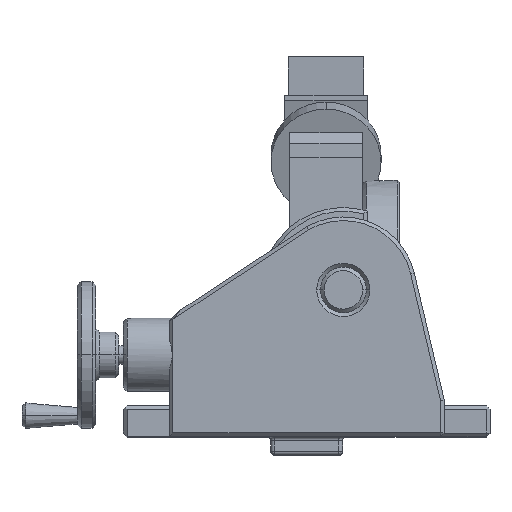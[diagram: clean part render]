
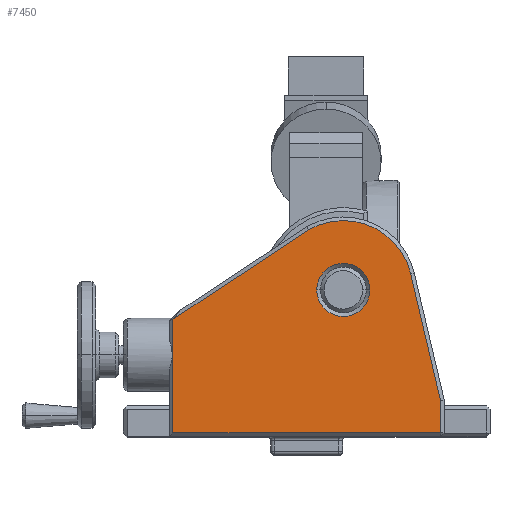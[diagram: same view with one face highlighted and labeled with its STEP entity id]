
A CAD part, top view. The second image highlights one B-rep face of the part: STEP entity #7450.
In plain terms, the highlighted planar face has unit normal (0, 0, 1).
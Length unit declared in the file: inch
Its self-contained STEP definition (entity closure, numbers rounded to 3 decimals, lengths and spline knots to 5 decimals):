
#230 = LINE ( 'NONE', #6066, #233 ) ;
#233 = VECTOR ( 'NONE', #6067, 39.37008 ) ;
#1207 = FACE_BOUND ( 'NONE', #3956, .T. ) ;
#1211 = FACE_OUTER_BOUND ( 'NONE', #3950, .T. ) ;
#1894 = CARTESIAN_POINT ( 'NONE',  ( 2.8396, 4.43282, 5.25 ) ) ;
#1902 = CARTESIAN_POINT ( 'NONE',  ( 0.275, 4., 5.25 ) ) ;
#1935 = CARTESIAN_POINT ( 'NONE',  ( 1.725, 4., 5.25 ) ) ;
#1944 = CARTESIAN_POINT ( 'NONE',  ( 0.05264, 5.63523, 5.25 ) ) ;
#1962 = CARTESIAN_POINT ( 'NONE',  ( 3.65, 0.1, 5.25 ) ) ;
#1986 = CARTESIAN_POINT ( 'NONE',  ( -3.65, 3.19613, 5.25 ) ) ;
#1987 = CARTESIAN_POINT ( 'NONE',  ( 3.65, 0.98839, 5.25 ) ) ;
#2116 = CARTESIAN_POINT ( 'NONE',  ( -3.65, 0.1, 5.25 ) ) ;
#2445 = CARTESIAN_POINT ( 'NONE',  ( 0.05264, 5.63523, 5.25 ) ) ;
#2455 = DIRECTION ( 'NONE',  ( -0.835, -0.55, 0. ) ) ;
#2970 = ORIENTED_EDGE ( 'NONE', *, *, #4489, .T. ) ;
#2972 = ORIENTED_EDGE ( 'NONE', *, *, #4589, .T. ) ;
#2974 = ORIENTED_EDGE ( 'NONE', *, *, #4593, .T. ) ;
#3167 = ORIENTED_EDGE ( 'NONE', *, *, #4055, .T. ) ;
#3176 = ORIENTED_EDGE ( 'NONE', *, *, #4259, .T. ) ;
#3198 = ORIENTED_EDGE ( 'NONE', *, *, #4599, .T. ) ;
#3239 = ORIENTED_EDGE ( 'NONE', *, *, #4187, .F. ) ;
#3270 = ORIENTED_EDGE ( 'NONE', *, *, #4406, .F. ) ;
#3306 = LINE ( 'NONE', #2445, #3311 ) ;
#3311 = VECTOR ( 'NONE', #2455, 39.37008 ) ;
#3427 = CIRCLE ( 'NONE', #4299, 0.725 ) ;
#3524 = LINE ( 'NONE', #10418, #3528 ) ;
#3528 = VECTOR ( 'NONE', #10429, 39.37008 ) ;
#3625 = CIRCLE ( 'NONE', #4611, 0.725 ) ;
#3715 = LINE ( 'NONE', #11043, #3719 ) ;
#3719 = VECTOR ( 'NONE', #11039, 39.37008 ) ;
#3861 = CIRCLE ( 'NONE', #4332, 1.88983 ) ;
#3871 = LINE ( 'NONE', #6044, #3872 ) ;
#3872 = VECTOR ( 'NONE', #6039, 39.37008 ) ;
#3950 = EDGE_LOOP ( 'NONE', ( #3176, #2970, #3198, #2974, #2972, #3167 ) ) ;
#3956 = EDGE_LOOP ( 'NONE', ( #3239, #3270 ) ) ;
#4055 = EDGE_CURVE ( 'NONE', #9342, #9384, #3306, .T. ) ;
#4187 = EDGE_CURVE ( 'NONE', #9333, #9300, #3427, .T. ) ;
#4259 = EDGE_CURVE ( 'NONE', #9384, #9564, #3524, .T. ) ;
#4299 = AXIS2_PLACEMENT_3D ( 'NONE', #9142, #9143, #9144 ) ;
#4332 = AXIS2_PLACEMENT_3D ( 'NONE', #6048, #6049, #6050 ) ;
#4406 = EDGE_CURVE ( 'NONE', #9300, #9333, #3625, .T. ) ;
#4489 = EDGE_CURVE ( 'NONE', #9564, #9360, #3715, .T. ) ;
#4589 = EDGE_CURVE ( 'NONE', #9292, #9342, #3861, .T. ) ;
#4593 = EDGE_CURVE ( 'NONE', #9385, #9292, #3871, .T. ) ;
#4599 = EDGE_CURVE ( 'NONE', #9360, #9385, #230, .T. ) ;
#4611 = AXIS2_PLACEMENT_3D ( 'NONE', #5770, #5772, #5774 ) ;
#5770 = CARTESIAN_POINT ( 'NONE',  ( 1., 4., 5.25 ) ) ;
#5772 = DIRECTION ( 'NONE',  ( 0., 0., 1. ) ) ;
#5774 = DIRECTION ( 'NONE',  ( 1., 0., 0. ) ) ;
#6039 = DIRECTION ( 'NONE',  ( -0.229, 0.973, 0. ) ) ;
#6044 = CARTESIAN_POINT ( 'NONE',  ( 3.65, 0.98839, 5.25 ) ) ;
#6048 = CARTESIAN_POINT ( 'NONE',  ( 1., 4., 5.25 ) ) ;
#6049 = DIRECTION ( 'NONE',  ( 0., 0., 1. ) ) ;
#6050 = DIRECTION ( 'NONE',  ( -1., 0., 0. ) ) ;
#6066 = CARTESIAN_POINT ( 'NONE',  ( 3.65, 3.01228, 5.25 ) ) ;
#6067 = DIRECTION ( 'NONE',  ( 0., 1., 0. ) ) ;
#6651 = AXIS2_PLACEMENT_3D ( 'NONE', #10327, #10324, #10331 ) ;
#7450 = ADVANCED_FACE ( 'NONE', ( #1207, #1211 ), #10329, .T. ) ;
#9142 = CARTESIAN_POINT ( 'NONE',  ( 1., 4., 5.25 ) ) ;
#9143 = DIRECTION ( 'NONE',  ( 0., 0., 1. ) ) ;
#9144 = DIRECTION ( 'NONE',  ( 1., 0., 0. ) ) ;
#9292 = VERTEX_POINT ( 'NONE', #1894 ) ;
#9300 = VERTEX_POINT ( 'NONE', #1902 ) ;
#9333 = VERTEX_POINT ( 'NONE', #1935 ) ;
#9342 = VERTEX_POINT ( 'NONE', #1944 ) ;
#9360 = VERTEX_POINT ( 'NONE', #1962 ) ;
#9384 = VERTEX_POINT ( 'NONE', #1986 ) ;
#9385 = VERTEX_POINT ( 'NONE', #1987 ) ;
#9564 = VERTEX_POINT ( 'NONE', #2116 ) ;
#10324 = DIRECTION ( 'NONE',  ( 0., 0., 1. ) ) ;
#10327 = CARTESIAN_POINT ( 'NONE',  ( -3.65, 0.1, 5.25 ) ) ;
#10329 = PLANE ( 'NONE',  #6651 ) ;
#10331 = DIRECTION ( 'NONE',  ( 1., 0., 0. ) ) ;
#10418 = CARTESIAN_POINT ( 'NONE',  ( -3.65, 1.59806, 5.25 ) ) ;
#10429 = DIRECTION ( 'NONE',  ( 0., -1., 0. ) ) ;
#11039 = DIRECTION ( 'NONE',  ( 1., 0., 0. ) ) ;
#11043 = CARTESIAN_POINT ( 'NONE',  ( 0., 0.1, 5.25 ) ) ;
